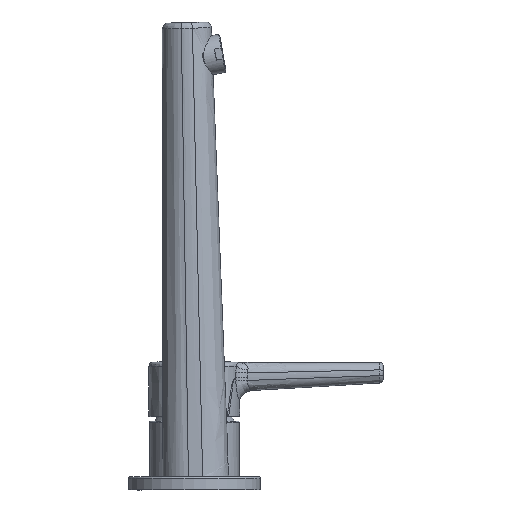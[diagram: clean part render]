
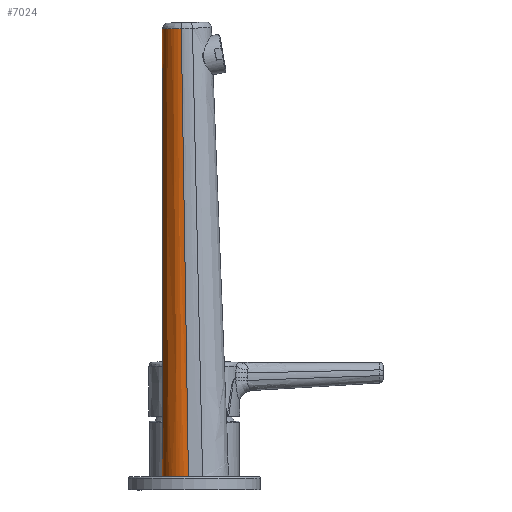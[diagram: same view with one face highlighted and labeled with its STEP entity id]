
A CAD part, left-side view. The second image highlights one B-rep face of the part: STEP entity #7024.
In plain terms, the highlighted free-form (B-spline) face has degree [5, 5] with [8, 6] control points.
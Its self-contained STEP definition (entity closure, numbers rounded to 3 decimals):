
#1331=CARTESIAN_POINT('',(-13.836,3.078,3.5));
#1332=CARTESIAN_POINT('',(-13.833,3.189,3.5));
#1333=CARTESIAN_POINT('',(-13.823,3.411,3.5));
#1334=CARTESIAN_POINT('',(-13.801,3.742,3.5));
#1335=CARTESIAN_POINT('',(-13.772,4.073,3.5));
#1336=CARTESIAN_POINT('',(-13.734,4.404,3.5));
#1337=CARTESIAN_POINT('',(-13.688,4.733,3.5));
#1338=CARTESIAN_POINT('',(-13.634,5.061,3.5));
#1339=CARTESIAN_POINT('',(-13.572,5.388,3.5));
#1340=CARTESIAN_POINT('',(-13.48,5.822,3.5));
#1341=CARTESIAN_POINT('',(-13.344,6.361,3.5));
#1342=CARTESIAN_POINT('',(-13.15,6.999,3.5));
#1343=CARTESIAN_POINT('',(-12.926,7.628,3.5));
#1344=CARTESIAN_POINT('',(-12.672,8.246,3.5));
#1345=CARTESIAN_POINT('',(-12.389,8.85,3.5));
#1346=CARTESIAN_POINT('',(-12.077,9.44,3.5));
#1347=CARTESIAN_POINT('',(-11.737,10.013,3.5));
#1348=CARTESIAN_POINT('',(-11.369,10.57,3.5));
#1349=CARTESIAN_POINT('',(-10.975,11.107,3.5));
#1350=CARTESIAN_POINT('',(-10.556,11.625,3.5));
#1351=CARTESIAN_POINT('',(-10.113,12.121,3.5));
#1352=CARTESIAN_POINT('',(-9.646,12.596,3.5));
#1353=CARTESIAN_POINT('',(-9.156,13.048,3.5));
#1354=CARTESIAN_POINT('',(-8.645,13.475,3.5));
#1355=CARTESIAN_POINT('',(-8.115,13.878,3.5));
#1356=CARTESIAN_POINT('',(-7.565,14.255,3.5));
#1357=CARTESIAN_POINT('',(-6.998,14.606,3.5));
#1358=CARTESIAN_POINT('',(-6.414,14.929,3.5));
#1359=CARTESIAN_POINT('',(-5.816,15.223,3.5));
#1360=CARTESIAN_POINT('',(-5.204,15.489,3.5));
#1361=CARTESIAN_POINT('',(-4.58,15.725,3.5));
#1362=CARTESIAN_POINT('',(-3.946,15.93,3.5));
#1363=CARTESIAN_POINT('',(-3.302,16.105,3.5));
#1364=CARTESIAN_POINT('',(-2.651,16.249,3.5));
#1365=CARTESIAN_POINT('',(-1.994,16.361,3.5));
#1366=CARTESIAN_POINT('',(-1.332,16.441,3.5));
#1367=CARTESIAN_POINT('',(-0.667,16.489,3.5));
#1368=CARTESIAN_POINT('',(-0.222,16.5,3.5));
#1369=CARTESIAN_POINT('',(0.,16.5,3.5));
#1371=DIRECTION('',(0.,0.,1.));
#1372=VECTOR('',#1371,230.798);
#1373=CARTESIAN_POINT('',(0.,16.5,3.5));
#1374=LINE('',#1373,#1372);
#1375=CARTESIAN_POINT('',(-12.908,6.763,234.519));
#1376=CARTESIAN_POINT('',(-12.769,7.336,234.506));
#1377=CARTESIAN_POINT('',(-12.386,8.539,234.479));
#1378=CARTESIAN_POINT('',(-11.406,10.462,234.435));
#1379=CARTESIAN_POINT('',(-9.905,12.397,234.391));
#1380=CARTESIAN_POINT('',(-8.027,14.03,234.354));
#1381=CARTESIAN_POINT('',(-5.735,15.363,234.324));
#1382=CARTESIAN_POINT('',(-3.007,16.278,234.303));
#1383=CARTESIAN_POINT('',(-1.018,16.5,234.298));
#1384=CARTESIAN_POINT('',(0.,16.5,234.298));
#1386=DIRECTION('',(0.004,0.016,1.));
#1387=VECTOR('',#1386,231.051);
#1388=CARTESIAN_POINT('',(-13.836,3.078,3.5));
#1389=LINE('',#1388,#1387);
#1434=CARTESIAN_POINT('',(0.,16.5,234.298));
#4151=CARTESIAN_POINT('',(-12.908,6.763,234.519));
#6644=VERTEX_POINT('',#1434);
#6654=VERTEX_POINT('',#4151);
#6720=VERTEX_POINT('',#1331);
#6721=VERTEX_POINT('',#1369);
#6966=CARTESIAN_POINT('',(0.209,16.498,0.));
#6967=CARTESIAN_POINT('',(0.202,16.499,47.54));
#6968=CARTESIAN_POINT('',(0.195,16.499,95.08));
#6969=CARTESIAN_POINT('',(0.188,16.499,142.62));
#6970=CARTESIAN_POINT('',(0.181,16.499,190.16));
#6971=CARTESIAN_POINT('',(0.174,16.499,237.7));
#6972=CARTESIAN_POINT('',(-1.971,16.531,0.));
#6973=CARTESIAN_POINT('',(-1.904,16.529,47.54));
#6974=CARTESIAN_POINT('',(-1.837,16.527,95.08));
#6975=CARTESIAN_POINT('',(-1.77,16.525,142.62));
#6976=CARTESIAN_POINT('',(-1.703,16.523,190.16));
#6977=CARTESIAN_POINT('',(-1.636,16.521,237.7));
#6978=CARTESIAN_POINT('',(-5.23,15.942,0.));
#6979=CARTESIAN_POINT('',(-5.053,15.977,47.54));
#6980=CARTESIAN_POINT('',(-4.876,16.012,95.08));
#6981=CARTESIAN_POINT('',(-4.698,16.048,142.62));
#6982=CARTESIAN_POINT('',(-4.521,16.083,190.16));
#6983=CARTESIAN_POINT('',(-4.344,16.119,237.7));
#6984=CARTESIAN_POINT('',(-9.288,13.848,0.));
#6985=CARTESIAN_POINT('',(-8.988,14.016,47.54));
#6986=CARTESIAN_POINT('',(-8.689,14.183,95.08));
#6987=CARTESIAN_POINT('',(-8.389,14.351,142.62));
#6988=CARTESIAN_POINT('',(-8.09,14.518,190.16));
#6989=CARTESIAN_POINT('',(-7.79,14.686,237.7));
#6990=CARTESIAN_POINT('',(-12.25,10.353,0.));
#6991=CARTESIAN_POINT('',(-11.904,10.73,47.54));
#6992=CARTESIAN_POINT('',(-11.558,11.107,95.08));
#6993=CARTESIAN_POINT('',(-11.212,11.485,142.62));
#6994=CARTESIAN_POINT('',(-10.867,11.862,190.16));
#6995=CARTESIAN_POINT('',(-10.521,12.239,237.7));
#6996=CARTESIAN_POINT('',(-13.597,6.086,0.));
#6997=CARTESIAN_POINT('',(-13.317,6.696,47.54));
#6998=CARTESIAN_POINT('',(-13.036,7.307,95.08));
#6999=CARTESIAN_POINT('',(-12.756,7.917,142.62));
#7000=CARTESIAN_POINT('',(-12.476,8.528,190.16));
#7001=CARTESIAN_POINT('',(-12.195,9.138,237.7));
#7002=CARTESIAN_POINT('',(-13.841,3.921,0.));
#7003=CARTESIAN_POINT('',(-13.62,4.638,47.54));
#7004=CARTESIAN_POINT('',(-13.399,5.355,95.08));
#7005=CARTESIAN_POINT('',(-13.178,6.071,142.62));
#7006=CARTESIAN_POINT('',(-12.957,6.788,190.16));
#7007=CARTESIAN_POINT('',(-12.736,7.505,237.7));
#7008=CARTESIAN_POINT('',(-13.854,2.808,0.));
#7009=CARTESIAN_POINT('',(-13.67,3.576,47.54));
#7010=CARTESIAN_POINT('',(-13.486,4.345,95.08));
#7011=CARTESIAN_POINT('',(-13.303,5.113,142.62));
#7012=CARTESIAN_POINT('',(-13.119,5.881,190.16));
#7013=CARTESIAN_POINT('',(-12.935,6.649,237.7));
#7014=B_SPLINE_SURFACE_WITH_KNOTS('',5,5,((#6966,#6967,#6968,#6969,#6970,#6971),
(#6972,#6973,#6974,#6975,#6976,#6977),(#6978,#6979,#6980,#6981,#6982,#6983),(
#6984,#6985,#6986,#6987,#6988,#6989),(#6990,#6991,#6992,#6993,#6994,#6995),(
#6996,#6997,#6998,#6999,#7000,#7001),(#7002,#7003,#7004,#7005,#7006,#7007),(
#7008,#7009,#7010,#7011,#7012,#7013)),.UNSPECIFIED.,.F.,.F.,.F.,(6,1,1,6),(6,6),
(-0.004,0.213,0.32,0.431),(0.,1.),
.UNSPECIFIED.);
#7015=ORIENTED_EDGE('',*,*,#6886,.T.);
#7017=ORIENTED_EDGE('',*,*,#7016,.T.);
#7019=ORIENTED_EDGE('',*,*,#7018,.F.);
#7021=ORIENTED_EDGE('',*,*,#7020,.F.);
#7022=EDGE_LOOP('',(#7015,#7017,#7019,#7021));
#7023=FACE_OUTER_BOUND('',#7022,.F.);
#7024=ADVANCED_FACE('',(#7023),#7014,.T.);
#1370=B_SPLINE_CURVE_WITH_KNOTS('',3,(#1331,#1332,#1333,#1334,#1335,#1336,#1337,
#1338,#1339,#1340,#1341,#1342,#1343,#1344,#1345,#1346,#1347,#1348,#1349,#1350,
#1351,#1352,#1353,#1354,#1355,#1356,#1357,#1358,#1359,#1360,#1361,#1362,#1363,
#1364,#1365,#1366,#1367,#1368,#1369),.UNSPECIFIED.,.F.,.F.,(4,1,1,1,1,1,1,1,1,1,
1,1,1,1,1,1,1,1,1,1,1,1,1,1,1,1,1,1,1,1,1,1,1,1,1,1,4),(0.,0.016,
0.031,0.047,0.062,0.078,
0.094,0.109,0.125,0.156,
0.187,0.219,0.25,0.281,
0.312,0.344,0.375,0.406,
0.437,0.469,0.5,0.531,
0.562,0.594,0.625,0.656,
0.687,0.719,0.75,0.781,
0.812,0.844,0.875,0.906,
0.937,0.969,1.),.UNSPECIFIED.);
#1385=B_SPLINE_CURVE_WITH_KNOTS('',3,(#1375,#1376,#1377,#1378,#1379,#1380,#1381,
#1382,#1383,#1384),.UNSPECIFIED.,.F.,.F.,(4,1,1,1,1,1,1,4),(0.,
0.143,0.286,0.429,0.571,
0.714,0.857,1.),.UNSPECIFIED.);
#6886=EDGE_CURVE('',#6720,#6721,#1370,.T.);
#7016=EDGE_CURVE('',#6721,#6644,#1374,.T.);
#7018=EDGE_CURVE('',#6654,#6644,#1385,.T.);
#7020=EDGE_CURVE('',#6720,#6654,#1389,.T.);
